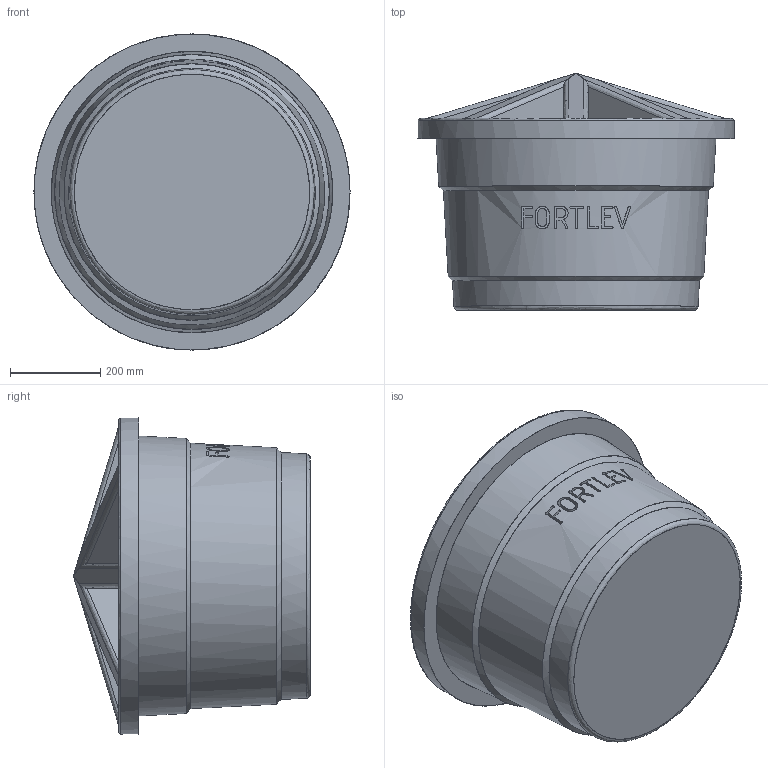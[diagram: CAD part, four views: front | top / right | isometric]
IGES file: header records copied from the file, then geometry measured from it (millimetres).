
Start section: Missler Software 3 rue Hermes, EUROPARC, 31520 Ramonville-Saint-Agne, France Tel   : +33 (0)5 61 00 03 00 Fax   : +33 (0)5 61 00 03 03 Email : sup.solid@topsolid.com
Global section: file name: C:\Users\Rodrigo\Desktop\CAIXA D’ÁGUA DE POLIETILENO.igs; native system: TopSolid v614200 Missler Software; preprocessor: IGES preprocessor v100000; author: Rodrigo; date: 170413.085658; units: millimetre
Bounding box: 700 x 524.73 x 700 mm (x, y, z)
Surface area: 1799049.9 mm2 (no closed solid volume)
Topology: 0 solids, 0 shells, 99 faces, 2683 edges, 2674 vertices
Faces by surface type: bspline 99
